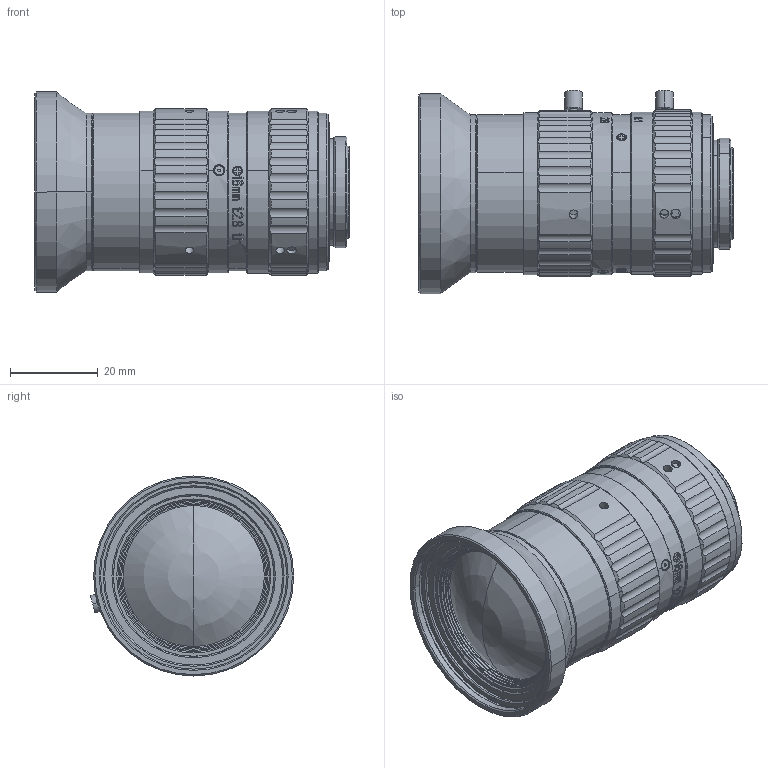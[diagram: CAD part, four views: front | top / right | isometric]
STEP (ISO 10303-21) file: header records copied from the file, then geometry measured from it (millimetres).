
FILE_DESCRIPTION((''),'2;1');
FILE_NAME('200_ASM','2025-04-18T09:14:26',('Admin'),(''),'CREO PARAMETRIC BY PTC INC, 2022073','CREO PARAMETRIC BY PTC INC, 2022073','');
FILE_SCHEMA(('CONFIG_CONTROL_DESIGN'));
Length unit declared in the file: millimetre
Products named in the file (118): 504_AF0; 501_AF0; JP_AF0; GQ_AF0; 201_AF0_ASM; 502_AF0; JP2_AF0; GQ2_AF0; MA117-02-20________AF0; MA117-02-20________AF1; MA083-02-03_AF0; MA083-01-05_AF0_ASM; MA083-02-04_AF0; MA117-02-20________AF2; MA117-02-20________AF3; MA083-02-03_AF1; MA083-01-05_AF1_ASM; MA083-02-11_AF0; MA117-02-20________AF4; MA117-02-20________AF5; MA083-02-03_AF2; MA083-01-05_AF2_ASM; MA083-02-09_AF0; MA117-02-20________AF6; MA117-02-20________AF7; MA083-02-03_AF3; MA083-01-05_AF3_ASM; MA117-02-20________AF8; MA117-02-20________AF9; MA083-02-03_AF4; MA083-01-05_AF4_ASM; MA117-02-20________AF10; MA117-02-20________AF11; MA083-02-03_AF5; MA083-01-05_AF5_ASM; MA117-02-20________AF12; MA117-02-20________AF13; MA083-02-03_AF6; MA083-01-05_AF6_ASM; MA117-02-20________AF14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
Assembly tree (117 placements, depth 6):
  200_ASM
    504_AF0
    201_AF0_ASM
      501_AF0
      JP_AF0
      GQ_AF0
    202_AF0_ASM
      502_AF0
      JP2_AF0
      GQ2_AF0
      MA083-00-04_AF0_ASM
        ASM0001_AF0_ASM
          MA083-01-05_AF0_ASM
            MA117-02-20________AF0
            MA117-02-20________AF1
            MA083-02-03_AF0
          MA083-02-04_AF0
          MA083-01-05_AF1_ASM
            MA117-02-20________AF2
            MA117-02-20________AF3
            MA083-02-03_AF1
          MA083-02-11_AF0
          MA083-01-05_AF2_ASM
            MA117-02-20________AF4
            MA117-02-20________AF5
            MA083-02-03_AF2
          MA083-02-09_AF0
          MA083-01-05_AF3_ASM
            MA117-02-20________AF6
            MA117-02-20________AF7
            MA083-02-03_AF3
          MA083-01-05_AF4_ASM
            MA117-02-20________AF8
            MA117-02-20________AF9
            MA083-02-03_AF4
          MA083-01-05_AF5_ASM
            MA117-02-20________AF10
            MA117-02-20________AF11
            MA083-02-03_AF5
          MA083-01-05_AF6_ASM
            MA117-02-20________AF12
            MA117-02-20________AF13
            MA083-02-03_AF6
          MA083-01-05_AF7_ASM
            MA117-02-20________AF14
            MA117-02-20________AF15
            MA083-02-03_AF7
        _MA083-00-04
    203_AF0_ASM
      503_AF0
      JP3_AF0
    505_AF0
    506_AF0
    508_AF0
    507_AF0
    509_AF0
    FA1625A-522_AF4
    M14402001_AF4
    FA1625A-522_AF0
    M14402001_AF0
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Bounding box: 71.73 x 46.36 x 45.6 mm (x, y, z)
Volume: 24648.7 mm3; surface area: 33155.3 mm2
Topology: 44 solids, 44 shells, 1707 faces, 4470 edges, 2926 vertices
Faces by surface type: bspline 584, plane 510, cylinder 428, cone 177, sphere 6, torus 2
Entity records: 76835 total; most frequent: CARTESIAN_POINT 35799, ORIENTED_EDGE 8928, DIRECTION 6864, EDGE_CURVE 4464, VERTEX_POINT 2926, AXIS2_PLACEMENT_3D 2463, VECTOR 1938, LINE 1938
